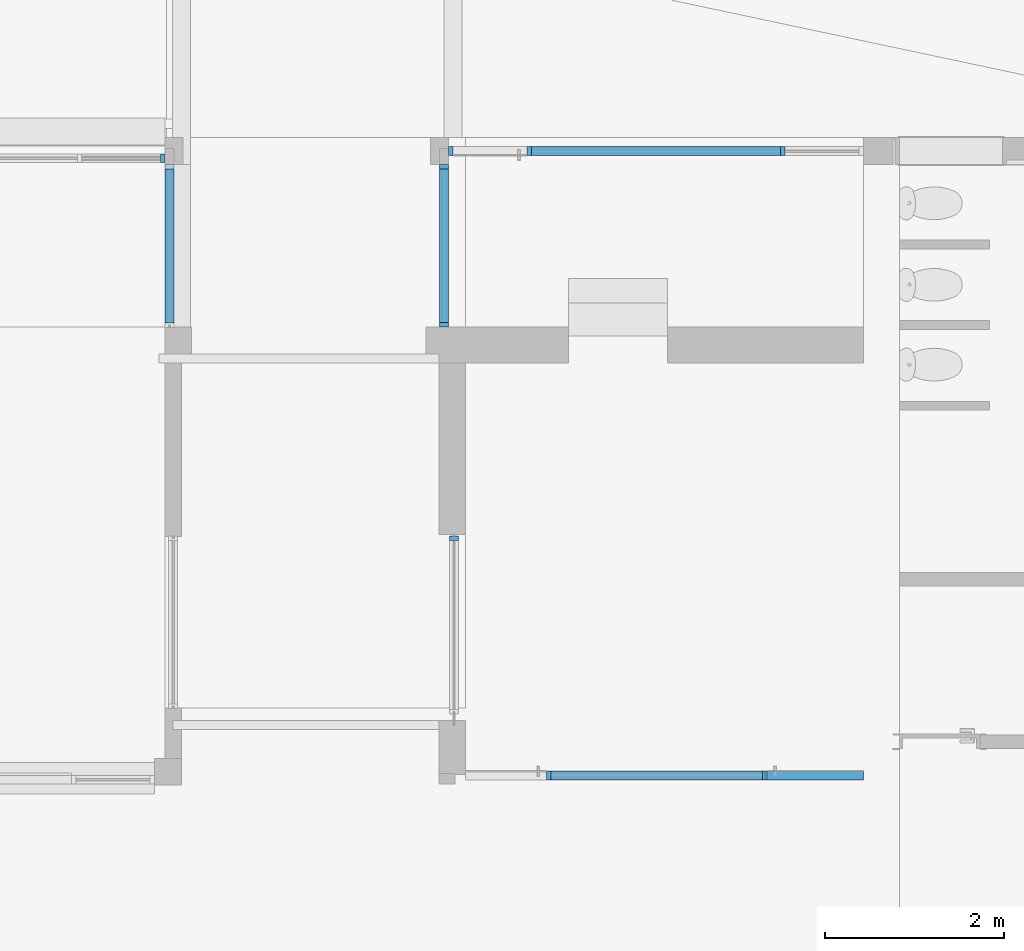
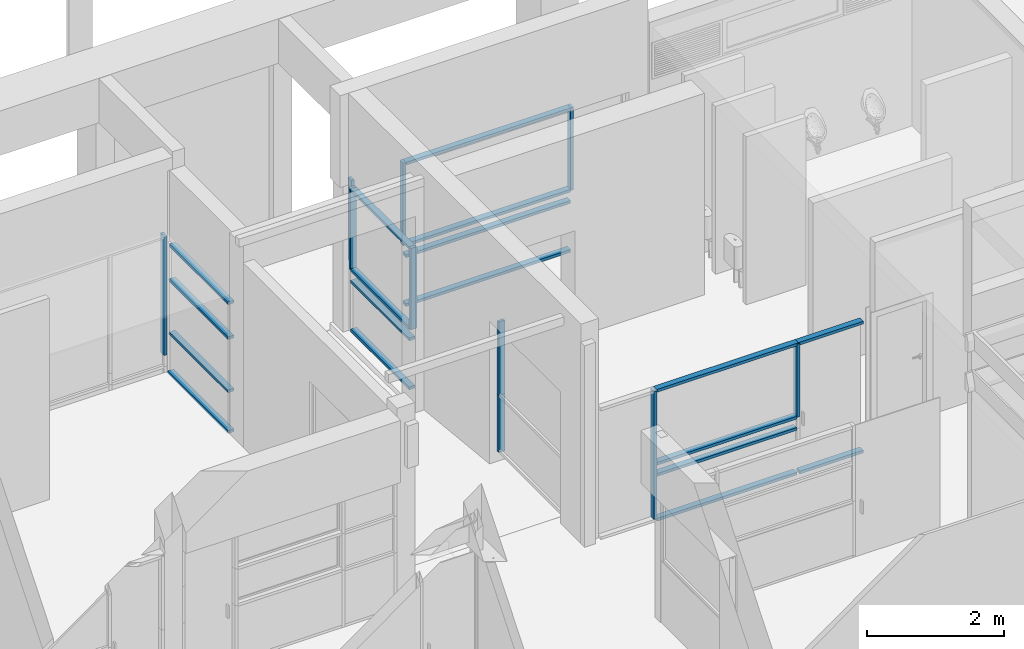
# One storey, part 14 of 117: 28 members, 6 elements without a shape of their own.
"""IFC4 building model written with IfcOpenShell, lengths in metres."""

from ifc_helpers import new_model, entity, si_unit, converted_unit, derived_unit, direction, frame, origin, place, context, subcontext, project, spatial, indexed_curve, outline, extrude, source, transform, mapped, material, type_object, type_shapes, element, aggregate, save


model = new_model("IFC4")

# Units and contexts
model_context = context("Model", 3, precision=1e-05, world=origin(), true_north=direction((6.123031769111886e-17, 1.0)))
body_context = subcontext(model_context, "Body", "Model", "MODEL_VIEW")
ifc_project = project(units=[si_unit("LENGTHUNIT", "METRE"), si_unit("AREAUNIT", "SQUARE_METRE"), si_unit("VOLUMEUNIT", "CUBIC_METRE"), converted_unit("PLANEANGLEUNIT", "DEGREE", entity("IfcRatioMeasure", 0.017453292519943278), si_unit("PLANEANGLEUNIT", "RADIAN"), dimensions=[0, 0, 0, 0, 0, 0, 0]), si_unit("MASSUNIT", "GRAM", prefix="KILO"), derived_unit("MASSDENSITYUNIT", [(si_unit("MASSUNIT", "GRAM", prefix="KILO"), 1), (si_unit("LENGTHUNIT", "METRE"), -3)]), derived_unit("MOMENTOFINERTIAUNIT", [(si_unit("LENGTHUNIT", "METRE"), 4)]), si_unit("TIMEUNIT", "SECOND"), si_unit("FREQUENCYUNIT", "HERTZ"), si_unit("THERMODYNAMICTEMPERATUREUNIT", "DEGREE_CELSIUS"), derived_unit("THERMALTRANSMITTANCEUNIT", [(si_unit("MASSUNIT", "GRAM", prefix="KILO"), 1), (si_unit("THERMODYNAMICTEMPERATUREUNIT", "KELVIN"), -1), (si_unit("TIMEUNIT", "SECOND"), -3)]), derived_unit("VOLUMETRICFLOWRATEUNIT", [(si_unit("LENGTHUNIT", "METRE"), 3), (si_unit("TIMEUNIT", "SECOND"), -1)]), derived_unit("MASSFLOWRATEUNIT", [(si_unit("MASSUNIT", "GRAM", prefix="KILO"), 1), (si_unit("TIMEUNIT", "SECOND"), -1)]), derived_unit("ROTATIONALFREQUENCYUNIT", [(si_unit("TIMEUNIT", "SECOND"), -1)]), si_unit("ELECTRICCURRENTUNIT", "AMPERE"), si_unit("ELECTRICVOLTAGEUNIT", "VOLT"), si_unit("POWERUNIT", "WATT"), si_unit("FORCEUNIT", "NEWTON", prefix="KILO"), si_unit("ILLUMINANCEUNIT", "LUX"), si_unit("LUMINOUSFLUXUNIT", "LUMEN"), si_unit("LUMINOUSINTENSITYUNIT", "CANDELA"), derived_unit("USERDEFINED", [(si_unit("MASSUNIT", "GRAM", prefix="KILO"), -1), (si_unit("LENGTHUNIT", "METRE"), -2), (si_unit("TIMEUNIT", "SECOND"), 3), (si_unit("LUMINOUSFLUXUNIT", "LUMEN"), 1)]), derived_unit("SOUNDPOWERUNIT", [(si_unit("MASSUNIT", "GRAM", prefix="KILO"), 1), (si_unit("LENGTHUNIT", "METRE"), 2), (si_unit("TIMEUNIT", "SECOND"), -3)]), derived_unit("SOUNDPRESSUREUNIT", [(si_unit("MASSUNIT", "GRAM", prefix="KILO"), 1), (si_unit("LENGTHUNIT", "METRE"), -1), (si_unit("TIMEUNIT", "SECOND"), -2)]), derived_unit("LINEARVELOCITYUNIT", [(si_unit("LENGTHUNIT", "METRE"), 1), (si_unit("TIMEUNIT", "SECOND"), -1)]), si_unit("PRESSUREUNIT", "PASCAL"), derived_unit("USERDEFINED", [(si_unit("LENGTHUNIT", "METRE"), -2), (si_unit("MASSUNIT", "GRAM", prefix="KILO"), 1), (si_unit("TIMEUNIT", "SECOND"), -2)]), derived_unit("LINEARFORCEUNIT", [(si_unit("MASSUNIT", "GRAM", prefix="KILO"), 1), (si_unit("LENGTHUNIT", "METRE"), 1), (si_unit("TIMEUNIT", "SECOND"), -2), (si_unit("LENGTHUNIT", "METRE"), -1)]), derived_unit("PLANARFORCEUNIT", [(si_unit("MASSUNIT", "GRAM", prefix="KILO"), 1), (si_unit("LENGTHUNIT", "METRE"), 1), (si_unit("TIMEUNIT", "SECOND"), -2), (si_unit("LENGTHUNIT", "METRE"), -2)])], contexts=[model_context])

# Site, building, storey
site_placement = place(None, origin())
site = spatial("IfcSite", under=ifc_project, at=site_placement, Name="Superficie", CompositionType="ELEMENT")
building_placement = place(site_placement, origin())
building = spatial("IfcBuilding", under=site, at=building_placement, CompositionType="ELEMENT")
storey_placement = place(building_placement, origin())
storey = spatial("IfcBuildingStorey", under=building, at=storey_placement, Name="Nivel 0", CompositionType="ELEMENT", Elevation=0.0)

# Curtain wall, member
curtain_wall_type = type_object("IfcCurtainWallType", Name="Muro cortina:Muro cortina - simple", PredefinedType="NOTDEFINED")
curtain_wall_1_placement = place(storey_placement, origin())
curtain_wall_1 = element("IfcCurtainWall", 1, at=curtain_wall_1_placement, inside=storey, type_object=curtain_wall_type, Name="Muro cortina:Muro cortina - simple", ObjectType="Muro cortina:Muro cortina - simple", PredefinedType="NOTDEFINED")
ifc_material = material(Name="<Unnamed>")
member_type_1 = type_object("IfcMemberType", Name="Montante rectangular:Montante rectangular - 5 x 10 cm", PredefinedType="MULLION", material=ifc_material)
shared_shape_1 = source(origin(), body_context, "Body", "SweptSolid", [
    extrude(outline(indexed_curve([(-0.05, -0.025), (0.05, -0.025), (0.05, 0.025), (-0.05, 0.025), (-0.05, -0.025)], self_intersect=False)), frame((0.0, 0.0, -1.0250000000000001), z_axis=(0.0, 0.0, 1.0), x_axis=(0.0, -1.0, 0.0)), (0.0, 0.0, 1.0), 1.0250000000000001),
])
type_shapes(member_type_1, [shared_shape_1])
member_1_placement = place(curtain_wall_1_placement, frame((16.01679901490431, 8.413973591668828, -0.004999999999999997), z_axis=(0.0, 0.0, -1.0), x_axis=(0.0, -1.0, 0.0)))
member_1 = element("IfcMember", 2, at=member_1_placement, type_object=member_type_1, material=ifc_material, Name="Montante rectangular:Montante rectangular - 5 x 10 cm", ObjectType="Montante rectangular:Montante rectangular - 5 x 10 cm", PredefinedType="MULLION", context=body_context, shape_type="MappedRepresentation", body=[
    mapped(shared_shape_1, transform((0.0, 0.0, 0.0), scale=1.0)),
])

curtain_wall_2_placement = place(storey_placement, origin())
curtain_wall_2 = element("IfcCurtainWall", 3, at=curtain_wall_2_placement, inside=storey, type_object=curtain_wall_type, Name="Muro cortina:Muro cortina - simple", ObjectType="Muro cortina:Muro cortina - simple", PredefinedType="NOTDEFINED")
member_type_2 = type_object("IfcMemberType", Name="Montante rectangular:Montante rectangular - 5 x 10 cm", PredefinedType="MULLION", material=ifc_material)
shared_shape_2 = source(origin(), body_context, "Body", "SweptSolid", [
    extrude(outline(indexed_curve([(-0.05, -0.025), (0.05, -0.025), (0.05, 0.025), (-0.05, 0.025), (-0.05, -0.025)], self_intersect=False)), frame((0.0, 0.0, -1.3099999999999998), z_axis=(0.0, 0.0, 1.0), x_axis=(0.0, -1.0, 0.0)), (0.0, 0.0, 1.0), 1.3099999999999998),
])
type_shapes(member_type_2, [shared_shape_2])
member_2_placement = place(curtain_wall_2_placement, frame((19.486799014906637, 5.766739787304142, 1.0200000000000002), z_axis=(0.0, 0.0, -1.0), x_axis=(1.0, 0.0, 0.0)))
member_2 = element("IfcMember", 4, at=member_2_placement, type_object=member_type_2, material=ifc_material, Name="Montante rectangular:Montante rectangular - 5 x 10 cm", ObjectType="Montante rectangular:Montante rectangular - 5 x 10 cm", PredefinedType="MULLION", context=body_context, shape_type="MappedRepresentation", body=[
    mapped(shared_shape_2, transform((0.0, 0.0, 0.0), scale=1.0)),
])

# Member
member_3_placement = place(curtain_wall_1_placement, frame((16.01679901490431, 8.413973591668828, 1.0200000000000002), z_axis=(0.0, 0.0, -1.0), x_axis=(0.0, -1.0, 0.0)))
member_3 = element("IfcMember", 5, at=member_3_placement, type_object=member_type_2, material=ifc_material, Name="Montante rectangular:Montante rectangular - 5 x 10 cm", ObjectType="Montante rectangular:Montante rectangular - 5 x 10 cm", PredefinedType="MULLION", context=body_context, shape_type="MappedRepresentation", body=[
    mapped(shared_shape_2, transform((0.0, 0.0, 0.0), scale=1.0)),
])

aggregate(curtain_wall_1, [member_1, member_3])

member_type_3 = type_object("IfcMemberType", Name="Montante rectangular:Montante rectangular - 5 x 10 cm", PredefinedType="MULLION", material=ifc_material)
shared_shape_3 = source(origin(), body_context, "Body", "SweptSolid", [
    extrude(outline(indexed_curve([(-0.05, -0.025), (0.05, -0.025), (0.05, 0.025), (-0.05, 0.025), (-0.05, -0.025)], self_intersect=False)), frame((-0.025, 0.0, -2.2849999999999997), z_axis=(0.0, 0.0, 1.0), x_axis=(0.0, -1.0, 0.0)), (0.0, 0.0, 1.0), 2.2849999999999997),
])
type_shapes(member_type_3, [shared_shape_3])
member_4_placement = place(curtain_wall_2_placement, frame((17.096799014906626, 5.76673978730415, 0.04499999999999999), z_axis=(0.0, 0.0, -1.0), x_axis=(1.0, 0.0, 0.0)))
member_4 = element("IfcMember", 6, at=member_4_placement, type_object=member_type_3, material=ifc_material, Name="Montante rectangular:Montante rectangular - 5 x 10 cm", ObjectType="Montante rectangular:Montante rectangular - 5 x 10 cm", PredefinedType="MULLION", context=body_context, shape_type="MappedRepresentation", body=[
    mapped(shared_shape_3, transform((0.0, 0.0, 0.0), scale=1.0)),
])

member_type_4 = type_object("IfcMemberType", Name="Montante rectangular:Montante rectangular - 5 x 10 cm", PredefinedType="MULLION", material=ifc_material)
shared_shape_4 = source(origin(), body_context, "Body", "SweptSolid", [
    extrude(outline(indexed_curve([(-0.05, -0.025), (0.05, -0.025), (0.05, 0.025), (-0.05, 0.025), (-0.05, -0.025)], self_intersect=False)), frame((0.0, 0.0, -2.3650000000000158), z_axis=(0.0, 0.0, 1.0), x_axis=(0.0, -1.0, 0.0)), (0.0, 0.0, 1.0), 2.3650000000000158),
])
type_shapes(member_type_4, [shared_shape_4])
member_5_placement = place(curtain_wall_2_placement, frame((19.46179901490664, 5.766739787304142, 0.019999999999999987), z_axis=(1.0, 0.0, 0.0), x_axis=(0.0, 0.0, 1.0)))
member_5 = element("IfcMember", 7, at=member_5_placement, type_object=member_type_4, material=ifc_material, Name="Montante rectangular:Montante rectangular - 5 x 10 cm", ObjectType="Montante rectangular:Montante rectangular - 5 x 10 cm", PredefinedType="MULLION", context=body_context, shape_type="MappedRepresentation", body=[
    mapped(shared_shape_4, transform((0.0, 0.0, 0.0), scale=1.0)),
])

member_type_5 = type_object("IfcMemberType", Name="Montante rectangular:Montante rectangular - 5 x 10 cm", PredefinedType="MULLION", material=ifc_material)
shared_shape_5 = source(origin(), body_context, "Body", "SweptSolid", [
    extrude(outline(indexed_curve([(-0.05, -0.025), (0.05, -0.025), (0.05, 0.025), (-0.05, 0.025), (-0.05, -0.025)], self_intersect=False)), frame((-0.025, 0.0, -2.390000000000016), z_axis=(0.0, 0.0, 1.0), x_axis=(0.0, -1.0, 0.0)), (0.0, 0.0, 1.0), 2.3900000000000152),
])
type_shapes(member_type_5, [shared_shape_5])
member_6_placement = place(curtain_wall_2_placement, frame((19.486799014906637, 5.766739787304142, 2.35), z_axis=(1.0, 0.0, 0.0), x_axis=(0.0, 0.0, 1.0)))
member_6 = element("IfcMember", 8, at=member_6_placement, type_object=member_type_5, material=ifc_material, Name="Montante rectangular:Montante rectangular - 5 x 10 cm", ObjectType="Montante rectangular:Montante rectangular - 5 x 10 cm", PredefinedType="MULLION", context=body_context, shape_type="MappedRepresentation", body=[
    mapped(shared_shape_5, transform((0.0, 0.0, 0.0), scale=1.0)),
])

member_type_6 = type_object("IfcMemberType", Name="Montante rectangular:Montante rectangular - 5 x 10 cm", PredefinedType="MULLION", material=ifc_material)
shared_shape_6 = source(origin(), body_context, "Body", "SweptSolid", [
    extrude(outline(indexed_curve([(-0.05, -0.025), (0.05, -0.025), (0.05, 0.025), (-0.05, 0.025), (-0.05, -0.025)], self_intersect=False)), frame((0.0, 0.0, -1.0749999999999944), z_axis=(0.0, 0.0, 1.0), x_axis=(0.0, -1.0, 0.0)), (0.0, 0.0, 1.0), 1.0749999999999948),
])
type_shapes(member_type_6, [shared_shape_6])
member_7_placement = place(curtain_wall_2_placement, frame((20.58679901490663, 5.7667397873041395, 0.019999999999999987), z_axis=(1.0, 0.0, 0.0), x_axis=(0.0, 0.0, 1.0)))
member_7 = element("IfcMember", 9, at=member_7_placement, type_object=member_type_6, material=ifc_material, Name="Montante rectangular:Montante rectangular - 5 x 10 cm", ObjectType="Montante rectangular:Montante rectangular - 5 x 10 cm", PredefinedType="MULLION", context=body_context, shape_type="MappedRepresentation", body=[
    mapped(shared_shape_6, transform((0.0, 0.0, 0.0), scale=1.0)),
])

member_type_7 = type_object("IfcMemberType", Name="Montante rectangular:Montante rectangular - 5 x 10 cm", PredefinedType="MULLION", material=ifc_material)
shared_shape_7 = source(origin(), body_context, "Body", "SweptSolid", [
    extrude(outline(indexed_curve([(-0.05, -0.025), (0.05, -0.025), (0.05, 0.025), (-0.05, 0.025), (-0.05, -0.025)], self_intersect=False)), frame((0.0, 0.0, -2.365000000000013), z_axis=(0.0, 0.0, 1.0), x_axis=(0.0, -1.0, 0.0)), (0.0, 0.0, 1.0), 2.365000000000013),
])
type_shapes(member_type_7, [shared_shape_7])
member_8_placement = place(curtain_wall_2_placement, frame((19.46179901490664, 5.766739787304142, 1.0200000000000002), z_axis=(1.0, 0.0, 0.0), x_axis=(0.0, 0.0, 1.0)))
member_8 = element("IfcMember", 10, at=member_8_placement, type_object=member_type_7, material=ifc_material, Name="Montante rectangular:Montante rectangular - 5 x 10 cm", ObjectType="Montante rectangular:Montante rectangular - 5 x 10 cm", PredefinedType="MULLION", context=body_context, shape_type="MappedRepresentation", body=[
    mapped(shared_shape_7, transform((0.0, 0.0, 0.0), scale=1.0)),
])

member_9_placement = place(curtain_wall_2_placement, frame((19.46179901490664, 5.766739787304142, 0.8200000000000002), z_axis=(1.0, 0.0, 0.0), x_axis=(0.0, 0.0, 1.0)))
member_9 = element("IfcMember", 11, at=member_9_placement, type_object=member_type_7, material=ifc_material, Name="Montante rectangular:Montante rectangular - 5 x 10 cm", ObjectType="Montante rectangular:Montante rectangular - 5 x 10 cm", PredefinedType="MULLION", context=body_context, shape_type="MappedRepresentation", body=[
    mapped(shared_shape_7, transform((0.0, 0.0, 0.0), scale=1.0)),
])

member_type_8 = type_object("IfcMemberType", Name="Montante rectangular:Montante rectangular - 5 x 10 cm", PredefinedType="MULLION", material=ifc_material)
shared_shape_8 = source(origin(), body_context, "Body", "SweptSolid", [
    extrude(outline(indexed_curve([(-0.05, -0.025), (0.05, -0.025), (0.05, 0.025), (-0.05, 0.025), (-0.05, -0.025)], self_intersect=False)), frame((-0.025, 0.0, -1.0999999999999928), z_axis=(0.0, 0.0, 1.0), x_axis=(0.0, -1.0, 0.0)), (0.0, 0.0, 1.0), 1.0999999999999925),
])
type_shapes(member_type_8, [shared_shape_8])
member_10_placement = place(curtain_wall_2_placement, frame((20.58679901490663, 5.7667397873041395, 2.35), z_axis=(1.0, 0.0, 0.0), x_axis=(0.0, 0.0, 1.0)))
member_10 = element("IfcMember", 12, at=member_10_placement, type_object=member_type_8, material=ifc_material, Name="Montante rectangular:Montante rectangular - 5 x 10 cm", ObjectType="Montante rectangular:Montante rectangular - 5 x 10 cm", PredefinedType="MULLION", context=body_context, shape_type="MappedRepresentation", body=[
    mapped(shared_shape_8, transform((0.0, 0.0, 0.0), scale=1.0)),
])

aggregate(curtain_wall_2, [member_4, member_5, member_6, member_7, member_8, member_10, member_2, member_9])

# Curtain wall, members
curtain_wall_3_placement = place(storey_placement, origin())
curtain_wall_3 = element("IfcCurtainWall", 13, at=curtain_wall_3_placement, inside=storey, type_object=curtain_wall_type, Name="Muro cortina:Muro cortina - simple", ObjectType="Muro cortina:Muro cortina - simple", PredefinedType="NOTDEFINED")
member_type_9 = type_object("IfcMemberType", Name="Montante rectangular:Montante rectangular - 5 x 10 cm", PredefinedType="MULLION", material=ifc_material)
shared_shape_9 = source(origin(), body_context, "Body", "SweptSolid", [
    extrude(outline(indexed_curve([(-0.05, -0.025), (0.05, -0.025), (0.05, 0.025), (-0.05, 0.025), (-0.05, -0.025)], self_intersect=False)), frame((-0.025, 0.0, -1.7187191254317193), z_axis=(0.0, 0.0, 1.0), x_axis=(0.0, -1.0, 0.0)), (0.0, 0.0, 1.0), 1.7187191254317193),
])
type_shapes(member_type_9, [shared_shape_9])
member_11_placement = place(curtain_wall_3_placement, frame((12.840568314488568, 12.534548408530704, 2.33), z_axis=(0.0, 1.0, 0.0), x_axis=(0.0, 0.0, 1.0)))
member_11 = element("IfcMember", 14, at=member_11_placement, type_object=member_type_9, material=ifc_material, Name="Montante rectangular:Montante rectangular - 5 x 10 cm", ObjectType="Montante rectangular:Montante rectangular - 5 x 10 cm", PredefinedType="MULLION", context=body_context, shape_type="MappedRepresentation", body=[
    mapped(shared_shape_9, transform((0.0, 0.0, 0.0), scale=1.0)),
])
member_type_10 = type_object("IfcMemberType", Name="Montante rectangular:Montante rectangular - 5 x 10 cm", PredefinedType="MULLION", material=ifc_material)
shared_shape_10 = source(origin(), body_context, "Body", "SweptSolid", [
    extrude(outline(indexed_curve([(-0.05, -0.025), (0.05, -0.025), (0.05, 0.025), (-0.05, 0.025), (-0.05, -0.025)], self_intersect=False)), frame((0.0, 0.0, -1.71871912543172), z_axis=(0.0, 0.0, 1.0), x_axis=(0.0, -1.0, 0.0)), (0.0, 0.0, 1.0), 1.7187191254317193),
])
type_shapes(member_type_10, [shared_shape_10])
member_12_placement = place(curtain_wall_3_placement, frame((12.840568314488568, 12.534548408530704, 1.6799999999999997), z_axis=(0.0, 1.0, 0.0), x_axis=(0.0, 0.0, 1.0)))
member_12 = element("IfcMember", 15, at=member_12_placement, type_object=member_type_10, material=ifc_material, Name="Montante rectangular:Montante rectangular - 5 x 10 cm", ObjectType="Montante rectangular:Montante rectangular - 5 x 10 cm", PredefinedType="MULLION", context=body_context, shape_type="MappedRepresentation", body=[
    mapped(shared_shape_10, transform((0.0, 0.0, 0.0), scale=1.0)),
])
member_13_placement = place(curtain_wall_3_placement, frame((12.840568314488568, 12.534548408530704, 0.7299999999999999), z_axis=(0.0, 1.0, 0.0), x_axis=(0.0, 0.0, 1.0)))
member_13 = element("IfcMember", 16, at=member_13_placement, type_object=member_type_10, material=ifc_material, Name="Montante rectangular:Montante rectangular - 5 x 10 cm", ObjectType="Montante rectangular:Montante rectangular - 5 x 10 cm", PredefinedType="MULLION", context=body_context, shape_type="MappedRepresentation", body=[
    mapped(shared_shape_10, transform((0.0, 0.0, 0.0), scale=1.0)),
])
member_type_11 = type_object("IfcMemberType", Name="Montante rectangular:Montante rectangular - 5 x 10 cm", PredefinedType="MULLION", material=ifc_material)
shared_shape_11 = source(origin(), body_context, "Body", "SweptSolid", [
    extrude(outline(indexed_curve([(-0.05, -0.025), (0.05, -0.025), (0.05, 0.025), (-0.05, 0.025), (-0.05, -0.025)], self_intersect=False)), frame((0.0, 0.0, -1.7687191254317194), z_axis=(0.0, 0.0, 1.0), x_axis=(0.0, -1.0, 0.0)), (0.0, 0.0, 1.0), 1.7687191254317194),
])
type_shapes(member_type_11, [shared_shape_11])
member_14_placement = place(curtain_wall_3_placement, frame((12.840568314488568, 12.584548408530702, 0.0038796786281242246), z_axis=(0.0, 1.0, 0.0), x_axis=(0.0, 0.0, 1.0)))
member_14 = element("IfcMember", 17, at=member_14_placement, type_object=member_type_11, material=ifc_material, Name="Montante rectangular:Montante rectangular - 5 x 10 cm", ObjectType="Montante rectangular:Montante rectangular - 5 x 10 cm", PredefinedType="MULLION", context=body_context, shape_type="MappedRepresentation", body=[
    mapped(shared_shape_11, transform((0.0, 0.0, 0.0), scale=1.0)),
])
aggregate(curtain_wall_3, [member_11, member_12, member_13, member_14])

# Curtain wall, member
curtain_wall_4_placement = place(storey_placement, origin())
curtain_wall_4 = element("IfcCurtainWall", 18, at=curtain_wall_4_placement, inside=storey, type_object=curtain_wall_type, Name="Muro cortina:Muro cortina - simple", ObjectType="Muro cortina:Muro cortina - simple", PredefinedType="NOTDEFINED")
member_type_12 = type_object("IfcMemberType", Name="Montante rectangular:Montante rectangular - 5 x 10 cm", PredefinedType="MULLION", material=ifc_material)
shared_shape_12 = source(origin(), body_context, "Body", "SweptSolid", [
    extrude(outline(indexed_curve([(-0.05, -0.025), (0.05, -0.025), (0.05, 0.025), (-0.05, 0.025), (-0.05, -0.025)], self_intersect=False)), frame((-0.025, 0.0, -2.135706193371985), z_axis=(0.0, 0.0, 1.0), x_axis=(0.0, -1.0, 0.0)), (0.0, 0.0, 1.0), 2.135706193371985),
])
type_shapes(member_type_12, [shared_shape_12])
member_15_placement = place(curtain_wall_4_placement, frame((12.790568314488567, 12.6545484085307, 2.439999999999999)))
member_15 = element("IfcMember", 19, at=member_15_placement, type_object=member_type_12, material=ifc_material, Name="Montante rectangular:Montante rectangular - 5 x 10 cm", ObjectType="Montante rectangular:Montante rectangular - 5 x 10 cm", PredefinedType="MULLION", context=body_context, shape_type="MappedRepresentation", body=[
    mapped(shared_shape_12, transform((0.0, 0.0, 0.0), scale=1.0)),
])
aggregate(curtain_wall_4, [member_15])

# Curtain wall, members
curtain_wall_5_placement = place(storey_placement, origin())
curtain_wall_5 = element("IfcCurtainWall", 20, at=curtain_wall_5_placement, inside=storey, type_object=curtain_wall_type, Name="Muro cortina:Muro cortina - simple", ObjectType="Muro cortina:Muro cortina - simple", PredefinedType="NOTDEFINED")
member_type_13 = type_object("IfcMemberType", Name="Montante rectangular:Montante rectangular - 5 x 10 cm", PredefinedType="MULLION", material=ifc_material)
shared_shape_13 = source(origin(), body_context, "Body", "SweptSolid", [
    extrude(outline(indexed_curve([(-0.05, -0.025), (0.05, -0.025), (0.05, 0.025), (-0.05, 0.025), (-0.05, -0.025)], self_intersect=False)), frame((0.0, 0.0, -1.7137191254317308), z_axis=(0.0, 0.0, 1.0), x_axis=(0.0, -1.0, 0.0)), (0.0, 0.0, 1.0), 1.7137191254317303),
])
type_shapes(member_type_13, [shared_shape_13])
member_16_placement = place(curtain_wall_5_placement, frame((15.906001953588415, 10.820829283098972, 0.7823999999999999), z_axis=(0.0, -1.0, 0.0), x_axis=(0.0, 0.0, 1.0)))
member_16 = element("IfcMember", 21, at=member_16_placement, type_object=member_type_13, material=ifc_material, Name="Montante rectangular:Montante rectangular - 5 x 10 cm", ObjectType="Montante rectangular:Montante rectangular - 5 x 10 cm", PredefinedType="MULLION", context=body_context, shape_type="MappedRepresentation", body=[
    mapped(shared_shape_13, transform((0.0, 0.0, 0.0), scale=1.0)),
])
member_17_placement = place(curtain_wall_5_placement, frame((15.906001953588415, 10.820829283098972, 0.5824), z_axis=(0.0, -1.0, 0.0), x_axis=(0.0, 0.0, 1.0)))
member_17 = element("IfcMember", 22, at=member_17_placement, type_object=member_type_13, material=ifc_material, Name="Montante rectangular:Montante rectangular - 5 x 10 cm", ObjectType="Montante rectangular:Montante rectangular - 5 x 10 cm", PredefinedType="MULLION", context=body_context, shape_type="MappedRepresentation", body=[
    mapped(shared_shape_13, transform((0.0, 0.0, 0.0), scale=1.0)),
])
member_type_14 = type_object("IfcMemberType", Name="Montante rectangular:Montante rectangular - 5 x 10 cm", PredefinedType="MULLION", material=ifc_material)
shared_shape_14 = source(origin(), body_context, "Body", "SweptSolid", [
    extrude(outline(indexed_curve([(-0.05, -0.025), (0.05, -0.025), (0.05, 0.025), (-0.05, 0.025), (-0.05, -0.025)], self_intersect=False)), frame((-0.025, 0.0, -1.7137191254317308), z_axis=(0.0, 0.0, 1.0), x_axis=(0.0, -1.0, 0.0)), (0.0, 0.0, 1.0), 1.7137191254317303),
])
type_shapes(member_type_14, [shared_shape_14])
member_18_placement = place(curtain_wall_5_placement, frame((15.90600195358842, 12.534548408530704, -0.31759999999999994), z_axis=(0.0, 1.0, 0.0), x_axis=(0.0, 0.0, -1.0)))
member_18 = element("IfcMember", 23, at=member_18_placement, type_object=member_type_14, material=ifc_material, Name="Montante rectangular:Montante rectangular - 5 x 10 cm", ObjectType="Montante rectangular:Montante rectangular - 5 x 10 cm", PredefinedType="MULLION", context=body_context, shape_type="MappedRepresentation", body=[
    mapped(shared_shape_14, transform((0.0, 0.0, 0.0), scale=1.0)),
])
member_type_15 = type_object("IfcMemberType", Name="Montante rectangular:Montante rectangular - 5 x 10 cm", PredefinedType="MULLION", material=ifc_material)
shared_shape_15 = source(origin(), body_context, "Body", "SweptSolid", [
    extrude(outline(indexed_curve([(-0.05, -0.025), (0.05, -0.025), (0.05, 0.025), (-0.05, 0.025), (-0.05, -0.025)], self_intersect=False)), frame((-0.025, 0.0, -1.4576), z_axis=(0.0, 0.0, 1.0), x_axis=(0.0, -1.0, 0.0)), (0.0, 0.0, 1.0), 1.4576),
])
type_shapes(member_type_15, [shared_shape_15])
member_19_placement = place(curtain_wall_5_placement, frame((15.906001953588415, 10.770829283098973, 0.7823999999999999), z_axis=(0.0, 0.0, -1.0), x_axis=(0.0, -1.0, 0.0)))
member_19 = element("IfcMember", 24, at=member_19_placement, type_object=member_type_15, material=ifc_material, Name="Montante rectangular:Montante rectangular - 5 x 10 cm", ObjectType="Montante rectangular:Montante rectangular - 5 x 10 cm", PredefinedType="MULLION", context=body_context, shape_type="MappedRepresentation", body=[
    mapped(shared_shape_15, transform((0.0, 0.0, 0.0), scale=1.0)),
])
member_type_16 = type_object("IfcMemberType", Name="Montante rectangular:Montante rectangular - 5 x 10 cm", PredefinedType="MULLION", material=ifc_material)
shared_shape_16 = source(origin(), body_context, "Body", "SweptSolid", [
    extrude(outline(indexed_curve([(-0.05, -0.025), (0.05, -0.025), (0.05, 0.025), (-0.05, 0.025), (-0.05, -0.025)], self_intersect=False)), frame((-0.025, 0.0, -1.4576), z_axis=(0.0, 0.0, 1.0), x_axis=(0.0, -1.0, 0.0)), (0.0, 0.0, 1.0), 1.4576),
])
type_shapes(member_type_16, [shared_shape_16])
member_20_placement = place(curtain_wall_5_placement, frame((15.90600195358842, 12.584548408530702, 2.2399999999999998), z_axis=(0.0, 0.0, 1.0), x_axis=(0.0, 1.0, 0.0)))
member_20 = element("IfcMember", 25, at=member_20_placement, type_object=member_type_16, material=ifc_material, Name="Montante rectangular:Montante rectangular - 5 x 10 cm", ObjectType="Montante rectangular:Montante rectangular - 5 x 10 cm", PredefinedType="MULLION", context=body_context, shape_type="MappedRepresentation", body=[
    mapped(shared_shape_16, transform((0.0, 0.0, 0.0), scale=1.0)),
])
member_type_17 = type_object("IfcMemberType", Name="Montante rectangular:Montante rectangular - 5 x 10 cm", PredefinedType="MULLION", material=ifc_material)
shared_shape_17 = source(origin(), body_context, "Body", "SweptSolid", [
    extrude(outline(indexed_curve([(-0.05, -0.025), (0.05, -0.025), (0.05, 0.025), (-0.05, 0.025), (-0.05, -0.025)], self_intersect=False)), frame((-0.025, 0.0, -1.7137191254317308), z_axis=(0.0, 0.0, 1.0), x_axis=(0.0, -1.0, 0.0)), (0.0, 0.0, 1.0), 1.7137191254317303),
])
type_shapes(member_type_17, [shared_shape_17])
member_21_placement = place(curtain_wall_5_placement, frame((15.906001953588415, 10.820829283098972, 2.2399999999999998), z_axis=(0.0, -1.0, 0.0), x_axis=(0.0, 0.0, 1.0)))
member_21 = element("IfcMember", 26, at=member_21_placement, type_object=member_type_17, material=ifc_material, Name="Montante rectangular:Montante rectangular - 5 x 10 cm", ObjectType="Montante rectangular:Montante rectangular - 5 x 10 cm", PredefinedType="MULLION", context=body_context, shape_type="MappedRepresentation", body=[
    mapped(shared_shape_17, transform((0.0, 0.0, 0.0), scale=1.0)),
])
aggregate(curtain_wall_5, [member_16, member_17, member_18, member_19, member_20, member_21])

curtain_wall_6_placement = place(storey_placement, origin())
curtain_wall_6 = element("IfcCurtainWall", 27, at=curtain_wall_6_placement, inside=storey, type_object=curtain_wall_type, Name="Muro cortina:Muro cortina - simple", ObjectType="Muro cortina:Muro cortina - simple", PredefinedType="NOTDEFINED")
member_type_18 = type_object("IfcMemberType", Name="Montante rectangular:Montante rectangular - 5 x 10 cm", PredefinedType="MULLION", material=ifc_material)
shared_shape_18 = source(origin(), body_context, "Body", "SweptSolid", [
    extrude(outline(indexed_curve([(-0.05, -0.025), (0.05, -0.025), (0.05, 0.025), (-0.05, 0.025), (-0.05, -0.025)], self_intersect=False)), frame((0.0, 0.0, -1.4790268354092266), z_axis=(0.0, 0.0, 1.0), x_axis=(0.0, -1.0, 0.0)), (0.0, 0.0, 1.0), 1.4790268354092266),
])
type_shapes(member_type_18, [shared_shape_18])
member_22_placement = place(curtain_wall_6_placement, frame((19.68679901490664, 12.73454840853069, 0.7809731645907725), z_axis=(0.0, 0.0, -1.0), x_axis=(1.0, 0.0, 0.0)))
member_22 = element("IfcMember", 28, at=member_22_placement, type_object=member_type_18, material=ifc_material, Name="Montante rectangular:Montante rectangular - 5 x 10 cm", ObjectType="Montante rectangular:Montante rectangular - 5 x 10 cm", PredefinedType="MULLION", context=body_context, shape_type="MappedRepresentation", body=[
    mapped(shared_shape_18, transform((0.0, 0.0, 0.0), scale=1.0)),
])
member_23_placement = place(curtain_wall_6_placement, frame((16.856001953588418, 12.734548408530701, 0.7809731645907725), z_axis=(0.0, 0.0, -1.0), x_axis=(1.0, 0.0, 0.0)))
member_23 = element("IfcMember", 29, at=member_23_placement, type_object=member_type_18, material=ifc_material, Name="Montante rectangular:Montante rectangular - 5 x 10 cm", ObjectType="Montante rectangular:Montante rectangular - 5 x 10 cm", PredefinedType="MULLION", context=body_context, shape_type="MappedRepresentation", body=[
    mapped(shared_shape_18, transform((0.0, 0.0, 0.0), scale=1.0)),
])
member_type_19 = type_object("IfcMemberType", Name="Montante rectangular:Montante rectangular - 5 x 10 cm", PredefinedType="MULLION", material=ifc_material)
shared_shape_19 = source(origin(), body_context, "Body", "SweptSolid", [
    extrude(outline(indexed_curve([(-0.05, -0.025), (0.05, -0.025), (0.05, 0.025), (-0.05, 0.025), (-0.05, -0.025)], self_intersect=False)), frame((0.0, 0.0, -2.7807970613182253), z_axis=(0.0, 0.0, 1.0), x_axis=(0.0, -1.0, 0.0)), (0.0, 0.0, 1.0), 2.7807970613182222),
])
type_shapes(member_type_19, [shared_shape_19])
member_24_placement = place(curtain_wall_6_placement, frame((19.66179901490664, 12.73454840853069, 0.7809731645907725), z_axis=(1.0, 0.0, 0.0), x_axis=(0.0, 0.0, 1.0)))
member_24 = element("IfcMember", 30, at=member_24_placement, type_object=member_type_19, material=ifc_material, Name="Montante rectangular:Montante rectangular - 5 x 10 cm", ObjectType="Montante rectangular:Montante rectangular - 5 x 10 cm", PredefinedType="MULLION", context=body_context, shape_type="MappedRepresentation", body=[
    mapped(shared_shape_19, transform((0.0, 0.0, 0.0), scale=1.0)),
])
member_25_placement = place(curtain_wall_6_placement, frame((19.66179901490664, 12.73454840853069, 0.5809731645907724), z_axis=(1.0, 0.0, 0.0), x_axis=(0.0, 0.0, 1.0)))
member_25 = element("IfcMember", 31, at=member_25_placement, type_object=member_type_19, material=ifc_material, Name="Montante rectangular:Montante rectangular - 5 x 10 cm", ObjectType="Montante rectangular:Montante rectangular - 5 x 10 cm", PredefinedType="MULLION", context=body_context, shape_type="MappedRepresentation", body=[
    mapped(shared_shape_19, transform((0.0, 0.0, 0.0), scale=1.0)),
])
member_type_20 = type_object("IfcMemberType", Name="Montante rectangular:Montante rectangular - 5 x 10 cm", PredefinedType="MULLION", material=ifc_material)
shared_shape_20 = source(origin(), body_context, "Body", "SweptSolid", [
    extrude(outline(indexed_curve([(-0.05, -0.025), (0.05, -0.025), (0.05, 0.025), (-0.05, 0.025), (-0.05, -0.025)], self_intersect=False)), frame((-0.025, 0.0, -2.7807970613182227), z_axis=(0.0, 0.0, 1.0), x_axis=(0.0, -1.0, 0.0)), (0.0, 0.0, 1.0), 2.780797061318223),
])
type_shapes(member_type_20, [shared_shape_20])
member_26_placement = place(curtain_wall_6_placement, frame((16.88100195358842, 12.734548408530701, -0.3190268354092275), z_axis=(-1.0, 0.0, 0.0), x_axis=(0.0, 0.0, -1.0)))
member_26 = element("IfcMember", 32, at=member_26_placement, type_object=member_type_20, material=ifc_material, Name="Montante rectangular:Montante rectangular - 5 x 10 cm", ObjectType="Montante rectangular:Montante rectangular - 5 x 10 cm", PredefinedType="MULLION", context=body_context, shape_type="MappedRepresentation", body=[
    mapped(shared_shape_20, transform((0.0, 0.0, 0.0), scale=1.0)),
])
member_type_21 = type_object("IfcMemberType", Name="Montante rectangular:Montante rectangular - 5 x 10 cm", PredefinedType="MULLION", material=ifc_material)
shared_shape_21 = source(origin(), body_context, "Body", "SweptSolid", [
    extrude(outline(indexed_curve([(-0.05, -0.025), (0.05, -0.025), (0.05, 0.025), (-0.05, 0.025), (-0.05, -0.025)], self_intersect=False)), frame((-0.025, 0.0, -1.4790268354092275), z_axis=(0.0, 0.0, 1.0), x_axis=(0.0, -1.0, 0.0)), (0.0, 0.0, 1.0), 1.4790268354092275),
])
type_shapes(member_type_21, [shared_shape_21])
member_27_placement = place(curtain_wall_6_placement, frame((15.95600195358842, 12.734548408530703, 2.26), z_axis=(0.0, 0.0, 1.0), x_axis=(-1.0, 0.0, 0.0)))
member_27 = element("IfcMember", 33, at=member_27_placement, type_object=member_type_21, material=ifc_material, Name="Montante rectangular:Montante rectangular - 5 x 10 cm", ObjectType="Montante rectangular:Montante rectangular - 5 x 10 cm", PredefinedType="MULLION", context=body_context, shape_type="MappedRepresentation", body=[
    mapped(shared_shape_21, transform((0.0, 0.0, 0.0), scale=1.0)),
])
member_type_22 = type_object("IfcMemberType", Name="Montante rectangular:Montante rectangular - 5 x 10 cm", PredefinedType="MULLION", material=ifc_material)
shared_shape_22 = source(origin(), body_context, "Body", "SweptSolid", [
    extrude(outline(indexed_curve([(-0.05, -0.025), (0.05, -0.025), (0.05, 0.025), (-0.05, 0.025), (-0.05, -0.025)], self_intersect=False)), frame((-0.025, 0.0, -2.7807970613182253), z_axis=(0.0, 0.0, 1.0), x_axis=(0.0, -1.0, 0.0)), (0.0, 0.0, 1.0), 2.7807970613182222),
])
type_shapes(member_type_22, [shared_shape_22])
member_28_placement = place(curtain_wall_6_placement, frame((19.66179901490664, 12.73454840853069, 2.2599999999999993), z_axis=(1.0, 0.0, 0.0), x_axis=(0.0, 0.0, 1.0)))
member_28 = element("IfcMember", 34, at=member_28_placement, type_object=member_type_22, material=ifc_material, Name="Montante rectangular:Montante rectangular - 5 x 10 cm", ObjectType="Montante rectangular:Montante rectangular - 5 x 10 cm", PredefinedType="MULLION", context=body_context, shape_type="MappedRepresentation", body=[
    mapped(shared_shape_22, transform((0.0, 0.0, 0.0), scale=1.0)),
])
aggregate(curtain_wall_6, [member_22, member_23, member_24, member_25, member_26, member_27, member_28])

save(model, "model.ifc")
